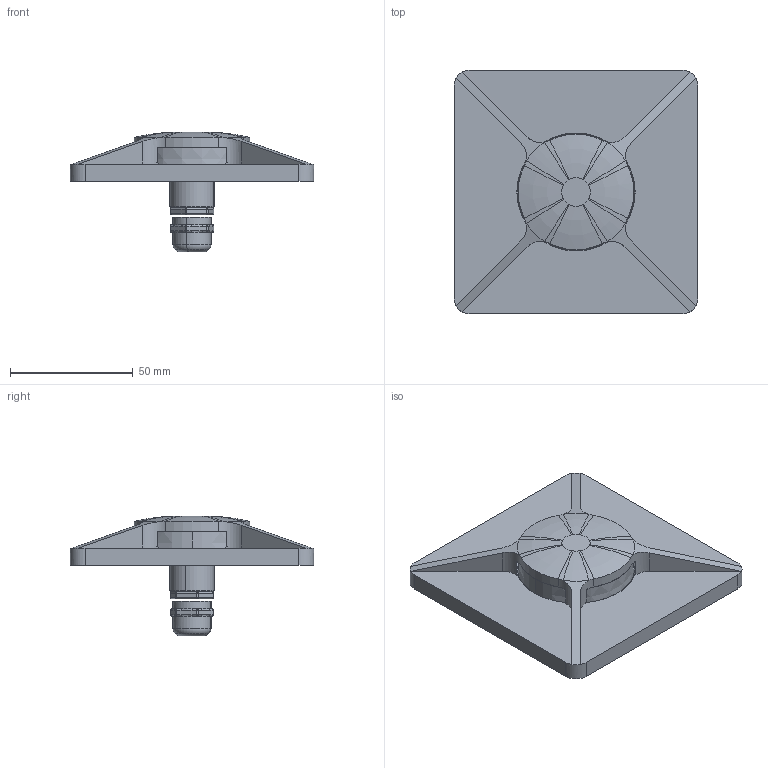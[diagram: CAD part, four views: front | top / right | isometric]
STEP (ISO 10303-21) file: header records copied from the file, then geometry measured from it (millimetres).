
FILE_DESCRIPTION((''),'2;1');
FILE_NAME('CNC_99_Q4L_SW0001','2025-07-30T16:48:20',('Manenti'),(''),'CREO PARAMETRIC BY PTC INC, 2025010','CREO PARAMETRIC BY PTC INC, 2025010','');
FILE_SCHEMA(('CONFIG_CONTROL_DESIGN'));
Length unit declared in the file: millimetre
Products named in the file (1): CNC_99_Q4L_SW0001
Bounding box: 99 x 99 x 48.7 mm (x, y, z)
Surface area: 28137.9 mm2 (no closed solid volume)
Topology: 0 solids, 5 shells, 171 faces, 495 edges, 287 vertices
Faces by surface type: cylinder 70, plane 33, bspline 28, sphere 22, torus 10, cone 8
Entity records: 6278 total; most frequent: CARTESIAN_POINT 2028, DIRECTION 926, ORIENTED_EDGE 846, EDGE_CURVE 473, AXIS2_PLACEMENT_3D 386, VERTEX_POINT 287, CIRCLE 243, EDGE_LOOP 171
